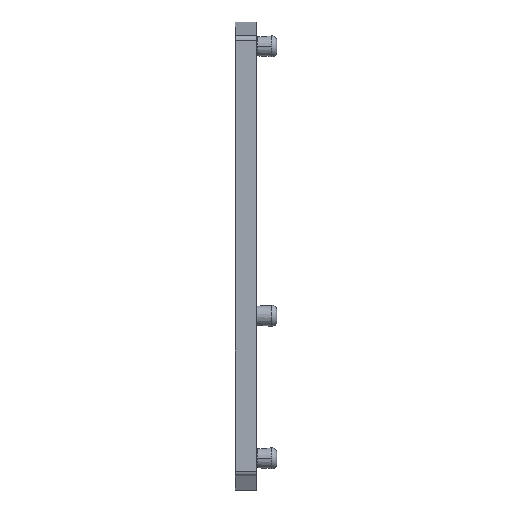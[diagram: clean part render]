
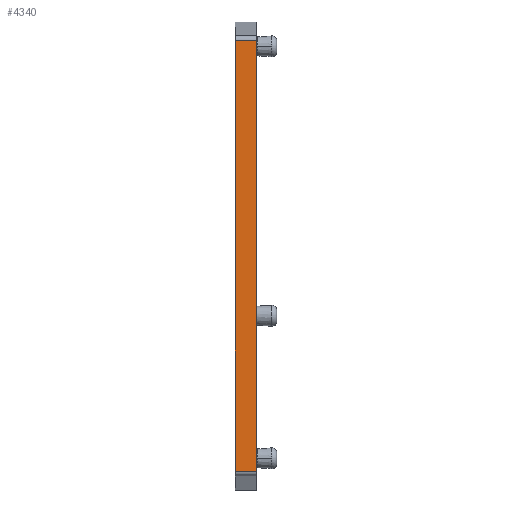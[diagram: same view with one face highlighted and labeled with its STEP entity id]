
A CAD part, top view. The second image highlights one B-rep face of the part: STEP entity #4340.
In plain terms, the highlighted planar face has unit normal (0, 0, 1).
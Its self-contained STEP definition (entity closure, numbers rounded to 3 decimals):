
#4340 = ADVANCED_FACE('',(#4341),#4355,.F.);
#4341 = FACE_BOUND('',#4342,.T.);
#4342 = EDGE_LOOP('',(#4343,#4366,#4382,#4398));
#4343 = ORIENTED_EDGE('',*,*,#4344,.T.);
#4344 = EDGE_CURVE('',#4345,#4347,#4349,.T.);
#4345 = VERTEX_POINT('',#4346);
#4346 = CARTESIAN_POINT('',(0.543,-26.982,49.5)
  );
#4347 = VERTEX_POINT('',#4348);
#4348 = CARTESIAN_POINT('',(0.543,17.675,49.5)
  );
#4349 = SURFACE_CURVE('',#4350,(#4354),.PCURVE_S1.);
#4350 = LINE('',#4351,#4352);
#4351 = CARTESIAN_POINT('',(0.543,-4.653,49.5)
  );
#4352 = VECTOR('',#4353,1.);
#4353 = DIRECTION('',(0.,1.,0.));
#4354 = PCURVE('',#4355,#4360);
#4355 = PLANE('',#4356);
#4356 = AXIS2_PLACEMENT_3D('',#4357,#4358,#4359);
#4357 = CARTESIAN_POINT('',(-0.857,-27.678,49.5
    ));
#4358 = DIRECTION('',(0.,0.,-1.));
#4359 = DIRECTION('',(0.,1.,0.));
#4360 = DEFINITIONAL_REPRESENTATION('',(#4361),#4365);
#4361 = LINE('',#4362,#4363);
#4362 = CARTESIAN_POINT('',(23.025,1.4));
#4363 = VECTOR('',#4364,1.);
#4364 = DIRECTION('',(1.,0.));
#4365 = ( GEOMETRIC_REPRESENTATION_CONTEXT(2) 
PARAMETRIC_REPRESENTATION_CONTEXT() REPRESENTATION_CONTEXT('2D SPACE',''
  ) );
#4366 = ORIENTED_EDGE('',*,*,#4367,.F.);
#4367 = EDGE_CURVE('',#4368,#4347,#4370,.T.);
#4368 = VERTEX_POINT('',#4369);
#4369 = CARTESIAN_POINT('',(-1.657,17.675,49.5)
  );
#4370 = SURFACE_CURVE('',#4371,(#4375),.PCURVE_S1.);
#4371 = LINE('',#4372,#4373);
#4372 = CARTESIAN_POINT('',(-0.557,17.675,49.5)
  );
#4373 = VECTOR('',#4374,1.);
#4374 = DIRECTION('',(1.,0.,0.));
#4375 = PCURVE('',#4355,#4376);
#4376 = DEFINITIONAL_REPRESENTATION('',(#4377),#4381);
#4377 = LINE('',#4378,#4379);
#4378 = CARTESIAN_POINT('',(45.354,0.3));
#4379 = VECTOR('',#4380,1.);
#4380 = DIRECTION('',(0.,1.));
#4381 = ( GEOMETRIC_REPRESENTATION_CONTEXT(2) 
PARAMETRIC_REPRESENTATION_CONTEXT() REPRESENTATION_CONTEXT('2D SPACE',''
  ) );
#4382 = ORIENTED_EDGE('',*,*,#4383,.F.);
#4383 = EDGE_CURVE('',#4384,#4368,#4386,.T.);
#4384 = VERTEX_POINT('',#4385);
#4385 = CARTESIAN_POINT('',(-1.657,-26.982,49.5
    ));
#4386 = SURFACE_CURVE('',#4387,(#4391),.PCURVE_S1.);
#4387 = LINE('',#4388,#4389);
#4388 = CARTESIAN_POINT('',(-1.657,-4.653,49.5)
  );
#4389 = VECTOR('',#4390,1.);
#4390 = DIRECTION('',(0.,1.,0.));
#4391 = PCURVE('',#4355,#4392);
#4392 = DEFINITIONAL_REPRESENTATION('',(#4393),#4397);
#4393 = LINE('',#4394,#4395);
#4394 = CARTESIAN_POINT('',(23.025,-0.8));
#4395 = VECTOR('',#4396,1.);
#4396 = DIRECTION('',(1.,0.));
#4397 = ( GEOMETRIC_REPRESENTATION_CONTEXT(2) 
PARAMETRIC_REPRESENTATION_CONTEXT() REPRESENTATION_CONTEXT('2D SPACE',''
  ) );
#4398 = ORIENTED_EDGE('',*,*,#4399,.T.);
#4399 = EDGE_CURVE('',#4384,#4345,#4400,.T.);
#4400 = SURFACE_CURVE('',#4401,(#4405),.PCURVE_S1.);
#4401 = LINE('',#4402,#4403);
#4402 = CARTESIAN_POINT('',(-3.457,-26.982,49.5
    ));
#4403 = VECTOR('',#4404,1.);
#4404 = DIRECTION('',(1.,0.,0.));
#4405 = PCURVE('',#4355,#4406);
#4406 = DEFINITIONAL_REPRESENTATION('',(#4407),#4411);
#4407 = LINE('',#4408,#4409);
#4408 = CARTESIAN_POINT('',(0.696,-2.6));
#4409 = VECTOR('',#4410,1.);
#4410 = DIRECTION('',(0.,1.));
#4411 = ( GEOMETRIC_REPRESENTATION_CONTEXT(2) 
PARAMETRIC_REPRESENTATION_CONTEXT() REPRESENTATION_CONTEXT('2D SPACE',''
  ) );
